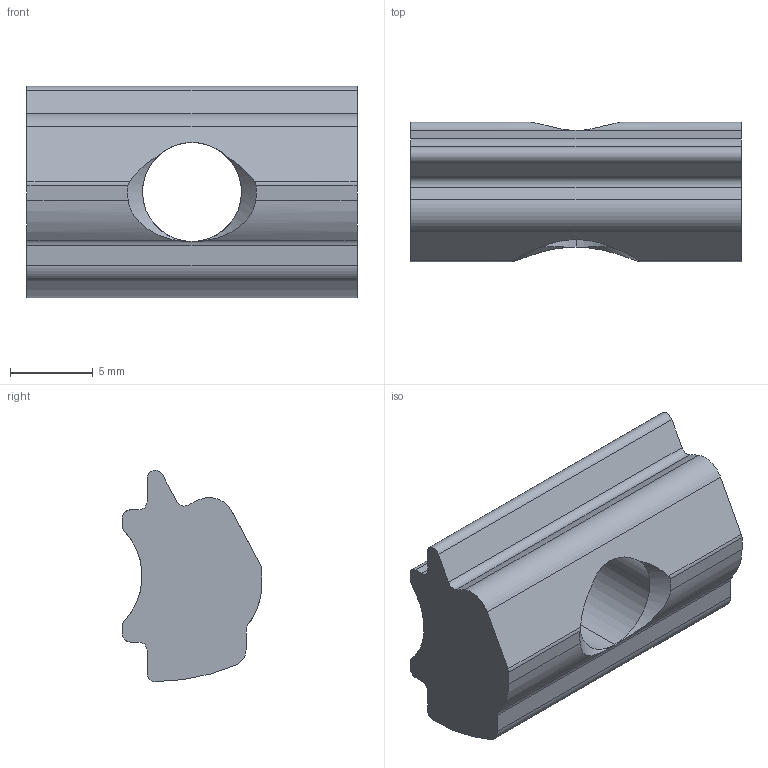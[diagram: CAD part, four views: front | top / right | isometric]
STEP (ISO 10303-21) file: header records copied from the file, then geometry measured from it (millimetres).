
FILE_DESCRIPTION((''),'2;1');
FILE_NAME('E:\端から修正\NAMT-08-6.stp','2013-11-07T16:23:21',('AMS8'),(''),'Autodesk Inventor 2008','Autodesk Inventor 2008','');
FILE_SCHEMA(('AUTOMOTIVE_DESIGN { 1 0 10303 214 1 1 1 1 }'));
Length unit declared in the file: millimetre
Products named in the file (2): DEFAULT; DEFAULTA
Assembly tree (1 placements, depth 2):
  DEFAULT
    DEFAULTA
Bounding box: 20 x 8.45 x 12.8 mm (x, y, z)
Volume: 1276.7 mm3; surface area: 962.1 mm2
Topology: 1 solids, 1 shells, 45 faces, 140 edges, 95 vertices
Faces by surface type: cylinder 26, plane 15, cone 4
Entity records: 1747 total; most frequent: CARTESIAN_POINT 460, ORIENTED_EDGE 280, DIRECTION 248, EDGE_CURVE 140, VERTEX_POINT 95, AXIS2_PLACEMENT_3D 92, VECTOR 64, LINE 64
